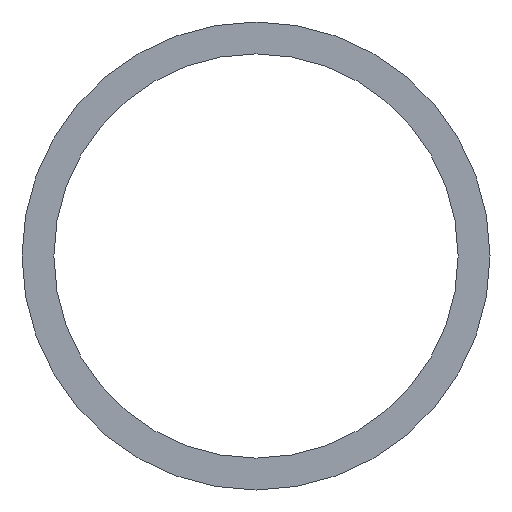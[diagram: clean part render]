
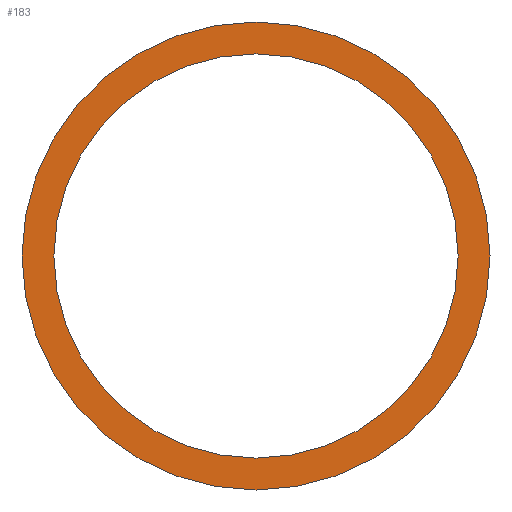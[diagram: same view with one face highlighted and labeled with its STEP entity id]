
A CAD part, left-side view. The second image highlights one B-rep face of the part: STEP entity #183.
In plain terms, the highlighted planar face has unit normal (-1, 0, 0).
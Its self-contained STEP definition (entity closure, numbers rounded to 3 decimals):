
#22 = VERTEX_POINT('',#23);
#23 = CARTESIAN_POINT('',(24.,8.8,0.));
#32 = CYLINDRICAL_SURFACE('',#33,8.8);
#33 = AXIS2_PLACEMENT_3D('',#34,#35,#36);
#34 = CARTESIAN_POINT('',(24.,0.,0.));
#35 = DIRECTION('',(-1.,-0.,-0.));
#36 = DIRECTION('',(0.,1.,0.));
#79 = EDGE_CURVE('',#22,#22,#80,.T.);
#80 = SURFACE_CURVE('',#81,(#86,#93),.PCURVE_S1.);
#81 = CIRCLE('',#82,8.8);
#82 = AXIS2_PLACEMENT_3D('',#83,#84,#85);
#83 = CARTESIAN_POINT('',(24.,0.,0.));
#84 = DIRECTION('',(1.,0.,0.));
#85 = DIRECTION('',(0.,1.,0.));
#86 = PCURVE('',#32,#87);
#87 = DEFINITIONAL_REPRESENTATION('',(#88),#92);
#88 = LINE('',#89,#90);
#89 = CARTESIAN_POINT('',(-0.,0.));
#90 = VECTOR('',#91,1.);
#91 = DIRECTION('',(-1.,0.));
#92 = ( GEOMETRIC_REPRESENTATION_CONTEXT(2) 
PARAMETRIC_REPRESENTATION_CONTEXT() REPRESENTATION_CONTEXT('2D SPACE',''
  ) );
#93 = PCURVE('',#94,#99);
#94 = PLANE('',#95);
#95 = AXIS2_PLACEMENT_3D('',#96,#97,#98);
#96 = CARTESIAN_POINT('',(24.,0.,0.));
#97 = DIRECTION('',(1.,0.,0.));
#98 = DIRECTION('',(-0.,0.,1.));
#99 = DEFINITIONAL_REPRESENTATION('',(#100),#104);
#100 = CIRCLE('',#101,8.8);
#101 = AXIS2_PLACEMENT_2D('',#102,#103);
#102 = CARTESIAN_POINT('',(0.,0.));
#103 = DIRECTION('',(0.,-1.));
#104 = ( GEOMETRIC_REPRESENTATION_CONTEXT(2) 
PARAMETRIC_REPRESENTATION_CONTEXT() REPRESENTATION_CONTEXT('2D SPACE',''
  ) );
#110 = VERTEX_POINT('',#111);
#111 = CARTESIAN_POINT('',(24.,7.6,0.));
#120 = CYLINDRICAL_SURFACE('',#121,7.6);
#121 = AXIS2_PLACEMENT_3D('',#122,#123,#124);
#122 = CARTESIAN_POINT('',(24.,0.,0.));
#123 = DIRECTION('',(-1.,-0.,-0.));
#124 = DIRECTION('',(0.,1.,0.));
#162 = EDGE_CURVE('',#110,#110,#163,.T.);
#163 = SURFACE_CURVE('',#164,(#169,#176),.PCURVE_S1.);
#164 = CIRCLE('',#165,7.6);
#165 = AXIS2_PLACEMENT_3D('',#166,#167,#168);
#166 = CARTESIAN_POINT('',(24.,0.,0.));
#167 = DIRECTION('',(1.,0.,0.));
#168 = DIRECTION('',(0.,1.,0.));
#169 = PCURVE('',#120,#170);
#170 = DEFINITIONAL_REPRESENTATION('',(#171),#175);
#171 = LINE('',#172,#173);
#172 = CARTESIAN_POINT('',(-0.,0.));
#173 = VECTOR('',#174,1.);
#174 = DIRECTION('',(-1.,0.));
#175 = ( GEOMETRIC_REPRESENTATION_CONTEXT(2) 
PARAMETRIC_REPRESENTATION_CONTEXT() REPRESENTATION_CONTEXT('2D SPACE',''
  ) );
#176 = PCURVE('',#94,#177);
#177 = DEFINITIONAL_REPRESENTATION('',(#178),#182);
#178 = CIRCLE('',#179,7.6);
#179 = AXIS2_PLACEMENT_2D('',#180,#181);
#180 = CARTESIAN_POINT('',(0.,0.));
#181 = DIRECTION('',(0.,-1.));
#182 = ( GEOMETRIC_REPRESENTATION_CONTEXT(2) 
PARAMETRIC_REPRESENTATION_CONTEXT() REPRESENTATION_CONTEXT('2D SPACE',''
  ) );
#183 = ADVANCED_FACE('',(#184,#187),#94,.F.);
#184 = FACE_BOUND('',#185,.F.);
#185 = EDGE_LOOP('',(#186));
#186 = ORIENTED_EDGE('',*,*,#79,.T.);
#187 = FACE_BOUND('',#188,.F.);
#188 = EDGE_LOOP('',(#189));
#189 = ORIENTED_EDGE('',*,*,#162,.F.);
